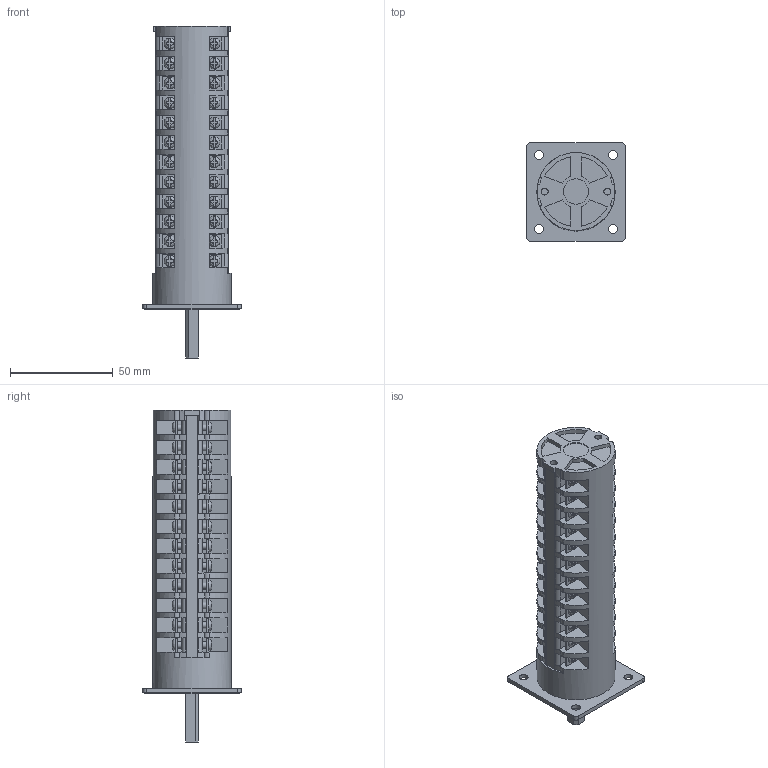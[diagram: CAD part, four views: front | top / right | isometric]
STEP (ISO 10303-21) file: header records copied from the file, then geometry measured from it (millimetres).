
FILE_DESCRIPTION(/* description */ (''),/* implementation_level */ '2;1');
FILE_NAME(/* name */ '4G10-U_standard_12_korpusow.stp',/* time_stamp */ '2021-07-21T08:04:26+02:00',/* author */ (''),/* organization */ (''),/* preprocessor_version */ 'ST-DEVELOPER v18.1',/* originating_system */ 'SIEMENS PLM Software NX 1965',/* authorisation */ '');
FILE_SCHEMA (('AUTOMOTIVE_DESIGN { 1 0 10303 214 3 1 1 1 }'));
Length unit declared in the file: millimetre
Products named in the file (1): 4G10-U_standard_12_korpusow_stp
Bounding box: 48 x 48 x 161.3 mm (x, y, z)
Volume: 127954.6 mm3; surface area: 42466.9 mm2
Topology: 1 solids, 1 shells, 1537 faces, 4270 edges, 2856 vertices
Faces by surface type: plane 1278, cylinder 209, bspline 48, torus 2
Full cylindrical faces by diameter (mm): 3.2 x48, 3.4 x3, 4.3 x4, 6.2 x2, 7.2 x4, 12.3 x1, 16.2 x1, 16.8 x1, 38 x1
Entity records: 49231 total; most frequent: CARTESIAN_POINT 11089, ORIENTED_EDGE 8102, DIRECTION 7505, EDGE_CURVE 4051, VERTEX_POINT 2752, LINE 2609, VECTOR 2609, AXIS2_PLACEMENT_3D 2448
